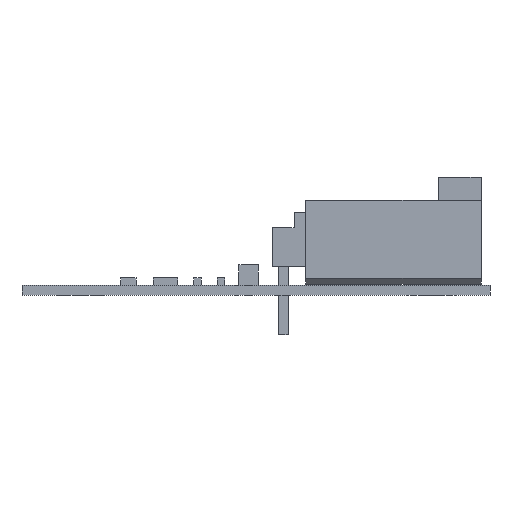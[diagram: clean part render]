
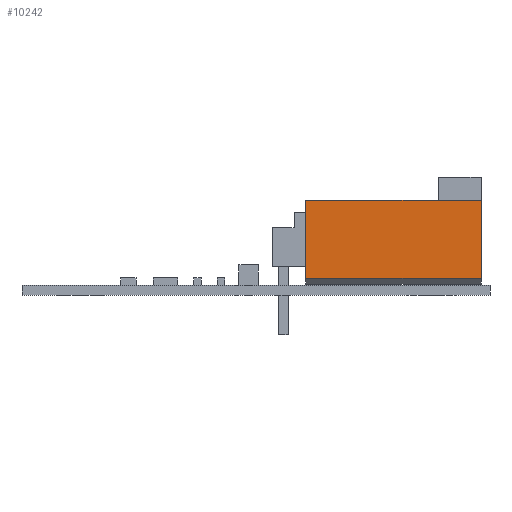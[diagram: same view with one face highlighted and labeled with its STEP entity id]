
A CAD part, front view. The second image highlights one B-rep face of the part: STEP entity #10242.
In plain terms, the highlighted planar face has unit normal (0, -1, 0) as drawn and (-1, 0, 0) by its records, which use the part's own axes.
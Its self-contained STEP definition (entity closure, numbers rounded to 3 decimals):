
#2273 = VERTEX_POINT('',#2274);
#2274 = CARTESIAN_POINT('',(-5.08,-2.54,-5.715));
#2283 = PLANE('',#2284);
#2284 = AXIS2_PLACEMENT_3D('',#2285,#2286,#2287);
#2285 = CARTESIAN_POINT('',(0.,0.,-5.715));
#2286 = DIRECTION('',(0.,0.,1.));
#2287 = DIRECTION('',(1.,0.,0.));
#2295 = PLANE('',#2296);
#2296 = AXIS2_PLACEMENT_3D('',#2297,#2298,#2299);
#2297 = CARTESIAN_POINT('',(-5.08,-2.54,-5.715));
#2298 = DIRECTION('',(0.,-1.,0.));
#2299 = DIRECTION('',(1.,0.,0.));
#2504 = VERTEX_POINT('',#2505);
#2505 = CARTESIAN_POINT('',(-5.08,2.54,-5.715));
#2519 = PLANE('',#2520);
#2520 = AXIS2_PLACEMENT_3D('',#2521,#2522,#2523);
#2521 = CARTESIAN_POINT('',(5.08,2.54,-5.715));
#2522 = DIRECTION('',(0.,1.,0.));
#2523 = DIRECTION('',(-1.,0.,0.));
#2531 = EDGE_CURVE('',#2504,#2273,#2532,.T.);
#2532 = SURFACE_CURVE('',#2533,(#2537,#2544),.PCURVE_S1.);
#2533 = LINE('',#2534,#2535);
#2534 = CARTESIAN_POINT('',(-5.08,2.54,-5.715));
#2535 = VECTOR('',#2536,1.);
#2536 = DIRECTION('',(0.,-1.,0.));
#2537 = PCURVE('',#2283,#2538);
#2538 = DEFINITIONAL_REPRESENTATION('',(#2539),#2543);
#2539 = LINE('',#2540,#2541);
#2540 = CARTESIAN_POINT('',(-5.08,2.54));
#2541 = VECTOR('',#2542,1.);
#2542 = DIRECTION('',(0.,-1.));
#2543 = ( GEOMETRIC_REPRESENTATION_CONTEXT(2) 
PARAMETRIC_REPRESENTATION_CONTEXT() REPRESENTATION_CONTEXT('2D SPACE',''
  ) );
#2544 = PCURVE('',#2545,#2550);
#2545 = PLANE('',#2546);
#2546 = AXIS2_PLACEMENT_3D('',#2547,#2548,#2549);
#2547 = CARTESIAN_POINT('',(-5.08,2.54,-5.715));
#2548 = DIRECTION('',(-1.,0.,0.));
#2549 = DIRECTION('',(0.,-1.,0.));
#2550 = DEFINITIONAL_REPRESENTATION('',(#2551),#2555);
#2551 = LINE('',#2552,#2553);
#2552 = CARTESIAN_POINT('',(0.,0.));
#2553 = VECTOR('',#2554,1.);
#2554 = DIRECTION('',(1.,0.));
#2555 = ( GEOMETRIC_REPRESENTATION_CONTEXT(2) 
PARAMETRIC_REPRESENTATION_CONTEXT() REPRESENTATION_CONTEXT('2D SPACE',''
  ) );
#2713 = PLANE('',#2714);
#2714 = AXIS2_PLACEMENT_3D('',#2715,#2716,#2717);
#2715 = CARTESIAN_POINT('',(0.,0.,5.715));
#2716 = DIRECTION('',(0.,0.,1.));
#2717 = DIRECTION('',(1.,0.,0.));
#2774 = EDGE_CURVE('',#2273,#2775,#2777,.T.);
#2775 = VERTEX_POINT('',#2776);
#2776 = CARTESIAN_POINT('',(-5.08,-2.54,5.715));
#2777 = SURFACE_CURVE('',#2778,(#2782,#2789),.PCURVE_S1.);
#2778 = LINE('',#2779,#2780);
#2779 = CARTESIAN_POINT('',(-5.08,-2.54,-5.715));
#2780 = VECTOR('',#2781,1.);
#2781 = DIRECTION('',(0.,0.,1.));
#2782 = PCURVE('',#2295,#2783);
#2783 = DEFINITIONAL_REPRESENTATION('',(#2784),#2788);
#2784 = LINE('',#2785,#2786);
#2785 = CARTESIAN_POINT('',(0.,0.));
#2786 = VECTOR('',#2787,1.);
#2787 = DIRECTION('',(0.,1.));
#2788 = ( GEOMETRIC_REPRESENTATION_CONTEXT(2) 
PARAMETRIC_REPRESENTATION_CONTEXT() REPRESENTATION_CONTEXT('2D SPACE',''
  ) );
#2789 = PCURVE('',#2545,#2790);
#2790 = DEFINITIONAL_REPRESENTATION('',(#2791),#2795);
#2791 = LINE('',#2792,#2793);
#2792 = CARTESIAN_POINT('',(5.08,0.));
#2793 = VECTOR('',#2794,1.);
#2794 = DIRECTION('',(0.,1.));
#2795 = ( GEOMETRIC_REPRESENTATION_CONTEXT(2) 
PARAMETRIC_REPRESENTATION_CONTEXT() REPRESENTATION_CONTEXT('2D SPACE',''
  ) );
#3417 = EDGE_CURVE('',#3418,#2775,#3420,.T.);
#3418 = VERTEX_POINT('',#3419);
#3419 = CARTESIAN_POINT('',(-5.08,2.54,5.715));
#3420 = SURFACE_CURVE('',#3421,(#3425,#3432),.PCURVE_S1.);
#3421 = LINE('',#3422,#3423);
#3422 = CARTESIAN_POINT('',(-5.08,2.54,5.715));
#3423 = VECTOR('',#3424,1.);
#3424 = DIRECTION('',(0.,-1.,0.));
#3425 = PCURVE('',#2713,#3426);
#3426 = DEFINITIONAL_REPRESENTATION('',(#3427),#3431);
#3427 = LINE('',#3428,#3429);
#3428 = CARTESIAN_POINT('',(-5.08,2.54));
#3429 = VECTOR('',#3430,1.);
#3430 = DIRECTION('',(0.,-1.));
#3431 = ( GEOMETRIC_REPRESENTATION_CONTEXT(2) 
PARAMETRIC_REPRESENTATION_CONTEXT() REPRESENTATION_CONTEXT('2D SPACE',''
  ) );
#3432 = PCURVE('',#2545,#3433);
#3433 = DEFINITIONAL_REPRESENTATION('',(#3434),#3438);
#3434 = LINE('',#3435,#3436);
#3435 = CARTESIAN_POINT('',(0.,11.43));
#3436 = VECTOR('',#3437,1.);
#3437 = DIRECTION('',(1.,0.));
#3438 = ( GEOMETRIC_REPRESENTATION_CONTEXT(2) 
PARAMETRIC_REPRESENTATION_CONTEXT() REPRESENTATION_CONTEXT('2D SPACE',''
  ) );
#9095 = EDGE_CURVE('',#2504,#3418,#9096,.T.);
#9096 = SURFACE_CURVE('',#9097,(#9101,#9108),.PCURVE_S1.);
#9097 = LINE('',#9098,#9099);
#9098 = CARTESIAN_POINT('',(-5.08,2.54,-5.715));
#9099 = VECTOR('',#9100,1.);
#9100 = DIRECTION('',(0.,0.,1.));
#9101 = PCURVE('',#2519,#9102);
#9102 = DEFINITIONAL_REPRESENTATION('',(#9103),#9107);
#9103 = LINE('',#9104,#9105);
#9104 = CARTESIAN_POINT('',(10.16,0.));
#9105 = VECTOR('',#9106,1.);
#9106 = DIRECTION('',(0.,1.));
#9107 = ( GEOMETRIC_REPRESENTATION_CONTEXT(2) 
PARAMETRIC_REPRESENTATION_CONTEXT() REPRESENTATION_CONTEXT('2D SPACE',''
  ) );
#9108 = PCURVE('',#2545,#9109);
#9109 = DEFINITIONAL_REPRESENTATION('',(#9110),#9114);
#9110 = LINE('',#9111,#9112);
#9111 = CARTESIAN_POINT('',(0.,0.));
#9112 = VECTOR('',#9113,1.);
#9113 = DIRECTION('',(0.,1.));
#9114 = ( GEOMETRIC_REPRESENTATION_CONTEXT(2) 
PARAMETRIC_REPRESENTATION_CONTEXT() REPRESENTATION_CONTEXT('2D SPACE',''
  ) );
#10242 = ADVANCED_FACE('',(#10243),#2545,.T.);
#10243 = FACE_BOUND('',#10244,.F.);
#10244 = EDGE_LOOP('',(#10245,#10246,#10247,#10248));
#10245 = ORIENTED_EDGE('',*,*,#2531,.F.);
#10246 = ORIENTED_EDGE('',*,*,#9095,.T.);
#10247 = ORIENTED_EDGE('',*,*,#3417,.T.);
#10248 = ORIENTED_EDGE('',*,*,#2774,.F.);
